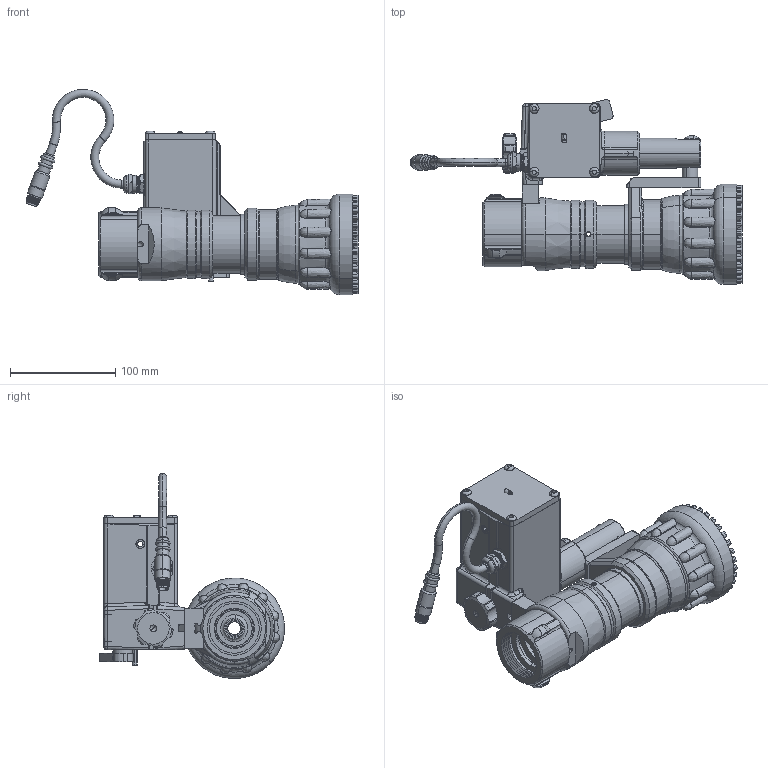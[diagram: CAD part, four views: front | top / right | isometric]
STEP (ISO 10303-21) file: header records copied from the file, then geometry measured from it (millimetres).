
FILE_DESCRIPTION (( 'STEP AP203' ), '1' );
FILE_NAME ('HM-TO-ERP.step', '2014-05-13T19:36:39', ( 'user' ), ( '' ), 'SwSTEP 2.0', 'SolidWorks 2012', '' );
FILE_SCHEMA (( 'CONFIG_CONTROL_DESIGN' ));
Products named in the file (1): HM-TO-ERP
Bounding box: 315.21 x 175.71 x 194.72 mm (x, y, z)
Surface area: 190591.9 mm2 (no closed solid volume)
Topology: 0 solids, 61 shells, 1136 faces, 3421 edges, 2297 vertices
Faces by surface type: cylinder 512, plane 318, cone 141, torus 86, bspline 60, sphere 19
Entity records: 46544 total; most frequent: CARTESIAN_POINT 17416, ORIENTED_EDGE 6159, DIRECTION 5696, EDGE_CURVE 3405, VERTEX_POINT 2287, AXIS2_PLACEMENT_3D 2221, VECTOR 1254, LINE 1254
